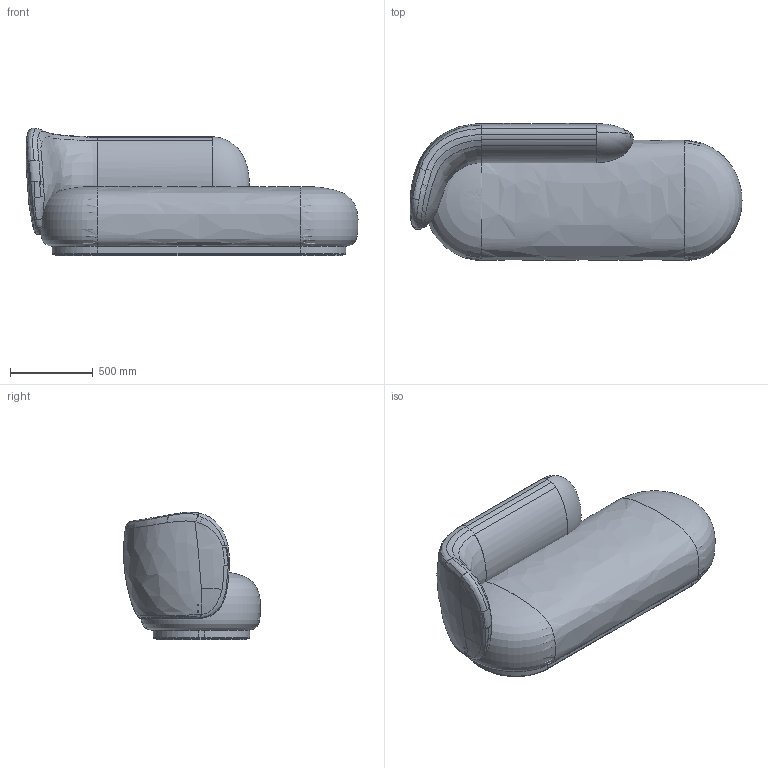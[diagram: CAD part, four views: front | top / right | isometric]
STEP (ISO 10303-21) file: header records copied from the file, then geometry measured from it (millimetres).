
FILE_DESCRIPTION(/* description */ (''),/* implementation_level */ '2;1');
FILE_NAME(/* name */ 'RIZ5FQ~Y',/* time_stamp */ '2019-10-21T15:06:34+02:00',/* author */ (''),/* organization */ (''),/* preprocessor_version */ 'ST-DEVELOPER v16.5',/* originating_system */ '',/* authorisation */ '');
FILE_SCHEMA (('AUTOMOTIVE_DESIGN'));
Length unit declared in the file: millimetre
Products named in the file (1): Document
Bounding box: 2012.09 x 830.35 x 773.03 mm (x, y, z)
Volume: 90543928 mm3; surface area: 9226402.7 mm2
Topology: 3 solids, 11 shells, 402 faces, 1162 edges, 758 vertices
Faces by surface type: bspline 368, plane 34
Entity records: 124078 total; most frequent: CARTESIAN_POINT 117487, ORIENTED_EDGE 2223, EDGE_CURVE 1146, B_SPLINE_CURVE_WITH_KNOTS 863, VERTEX_POINT 754, EDGE_LOOP 452, ADVANCED_FACE 402, FACE_OUTER_BOUND 402
